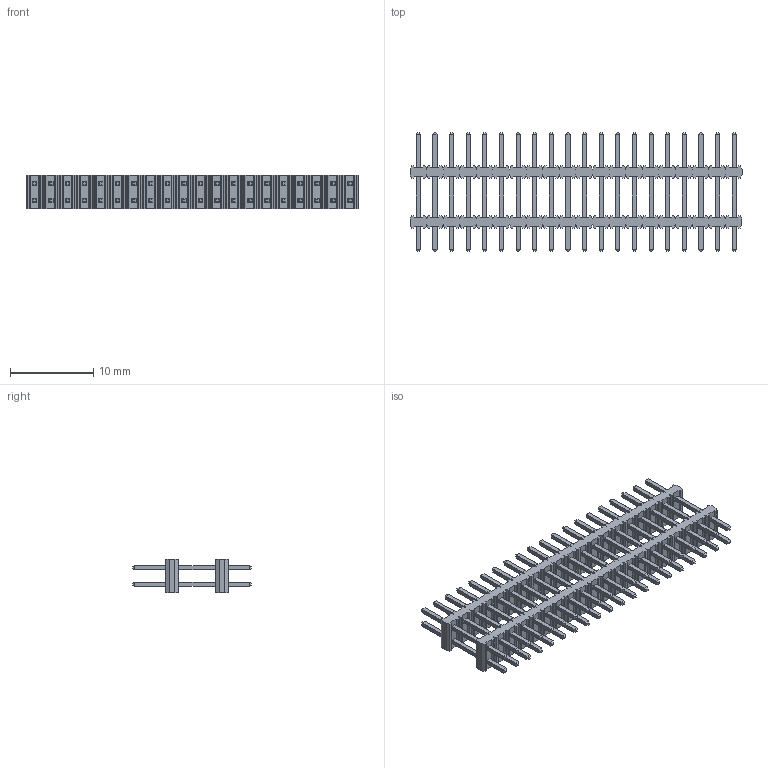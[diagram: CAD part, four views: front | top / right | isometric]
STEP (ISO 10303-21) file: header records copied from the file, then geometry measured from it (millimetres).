
FILE_DESCRIPTION (( 'STEP AP214' ), '1' );
FILE_NAME ('2113-2X20G00S-2.8-4-14.3B.STEP', '2017-06-01T10:19:59', ( 'admin' ), ( '' ), 'SwSTEP 2.0', 'SolidWorks 2011', '' );
FILE_SCHEMA (( 'AUTOMOTIVE_DESIGN' ));
Length unit declared in the file: millimetre
Products named in the file (3): 2113-PIN; 2112-2x20B; 2113-2X20G00S-2.8-4-14.3B
Assembly tree (42 placements, depth 2):
  2113-2X20G00S-2.8-4-14.3B
    2113-PIN  x40
    2112-2x20B  x2
Bounding box: 39.92 x 14.3 x 4 mm (x, y, z)
Volume: 503.1 mm3; surface area: 2348.2 mm2
Topology: 42 solids, 42 shells, 1448 faces, 3772 edges, 2408 vertices
Faces by surface type: plane 1448
Entity records: 15554 total; most frequent: CARTESIAN_POINT 2787, ORIENTED_EDGE 2708, DIRECTION 2350, EDGE_CURVE 1354, LINE 1344, VECTOR 1344, VERTEX_POINT 900, EDGE_LOOP 538
